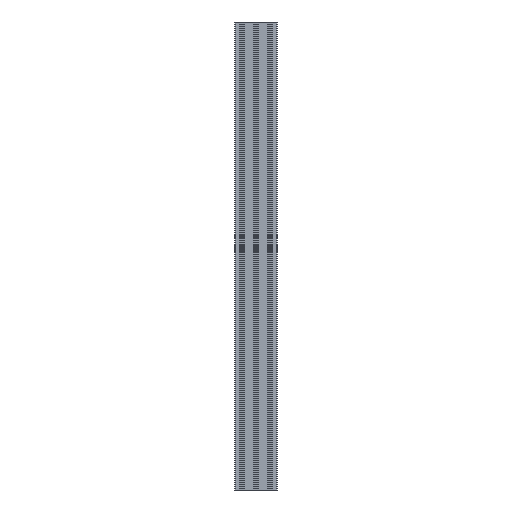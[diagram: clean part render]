
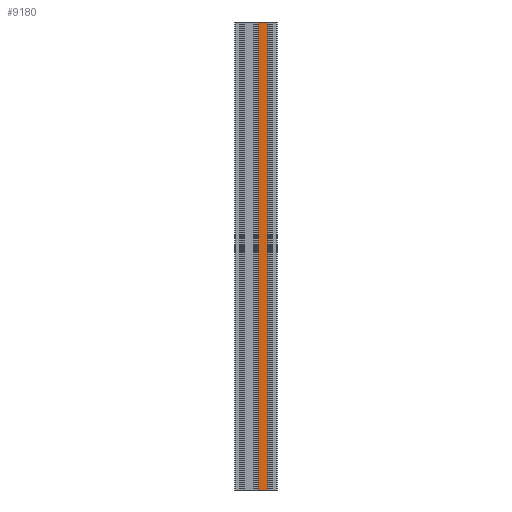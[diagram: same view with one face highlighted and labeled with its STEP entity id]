
A CAD part, front view. The second image highlights one B-rep face of the part: STEP entity #9180.
In plain terms, the highlighted planar face has unit normal (0, -1, 0).
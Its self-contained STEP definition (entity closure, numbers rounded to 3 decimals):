
#388 = VECTOR ( 'NONE', #1886, 1000. ) ;
#1069 = LINE ( 'NONE', #20860, #1611 ) ;
#1611 = VECTOR ( 'NONE', #10355, 1000. ) ;
#1886 = DIRECTION ( 'NONE',  ( 1., 0., 0. ) ) ;
#3524 = LINE ( 'NONE', #8596, #12869 ) ;
#4734 = FACE_OUTER_BOUND ( 'NONE', #12572, .T. ) ;
#5104 = LINE ( 'NONE', #19364, #388 ) ;
#5205 = EDGE_CURVE ( 'NONE', #20185, #21877, #3524, .T. ) ;
#6827 = CARTESIAN_POINT ( 'NONE',  ( 4.9, -15., -1000. ) ) ;
#8149 = ORIENTED_EDGE ( 'NONE', *, *, #11519, .T. ) ;
#8300 = DIRECTION ( 'NONE',  ( 0., -1., 0. ) ) ;
#8559 = DIRECTION ( 'NONE',  ( 0., 0., 1. ) ) ;
#8596 = CARTESIAN_POINT ( 'NONE',  ( 4.9, -15., -1000. ) ) ;
#9180 = ADVANCED_FACE ( 'NONE', ( #4734 ), #15303, .T. ) ;
#9827 = ORIENTED_EDGE ( 'NONE', *, *, #5205, .T. ) ;
#10355 = DIRECTION ( 'NONE',  ( 0., 0., 1. ) ) ;
#10451 = LINE ( 'NONE', #6827, #19763 ) ;
#10472 = ORIENTED_EDGE ( 'NONE', *, *, #20417, .F. ) ;
#11519 = EDGE_CURVE ( 'NONE', #21877, #14726, #1069, .T. ) ;
#11774 = CARTESIAN_POINT ( 'NONE',  ( 4.9, -15., -1000. ) ) ;
#12572 = EDGE_LOOP ( 'NONE', ( #16822, #10472, #9827, #8149 ) ) ;
#12869 = VECTOR ( 'NONE', #15671, 1000. ) ;
#13291 = EDGE_CURVE ( 'NONE', #18210, #14726, #5104, .T. ) ;
#14726 = VERTEX_POINT ( 'NONE', #22203 ) ;
#15003 = CARTESIAN_POINT ( 'NONE',  ( 25.1, -15., -1000. ) ) ;
#15303 = PLANE ( 'NONE',  #21840 ) ;
#15671 = DIRECTION ( 'NONE',  ( 1., 0., 0. ) ) ;
#16729 = CARTESIAN_POINT ( 'NONE',  ( 4.9, -15., 0. ) ) ;
#16822 = ORIENTED_EDGE ( 'NONE', *, *, #13291, .F. ) ;
#18210 = VERTEX_POINT ( 'NONE', #16729 ) ;
#18317 = CARTESIAN_POINT ( 'NONE',  ( 4.9, -15., -1000. ) ) ;
#19364 = CARTESIAN_POINT ( 'NONE',  ( 4.9, -15., 0. ) ) ;
#19763 = VECTOR ( 'NONE', #8559, 1000. ) ;
#20185 = VERTEX_POINT ( 'NONE', #18317 ) ;
#20417 = EDGE_CURVE ( 'NONE', #20185, #18210, #10451, .T. ) ;
#20574 = DIRECTION ( 'NONE',  ( 1., 0., 0. ) ) ;
#20860 = CARTESIAN_POINT ( 'NONE',  ( 25.1, -15., -1000. ) ) ;
#21840 = AXIS2_PLACEMENT_3D ( 'NONE', #11774, #8300, #20574 ) ;
#21877 = VERTEX_POINT ( 'NONE', #15003 ) ;
#22203 = CARTESIAN_POINT ( 'NONE',  ( 25.1, -15., 0. ) ) ;
